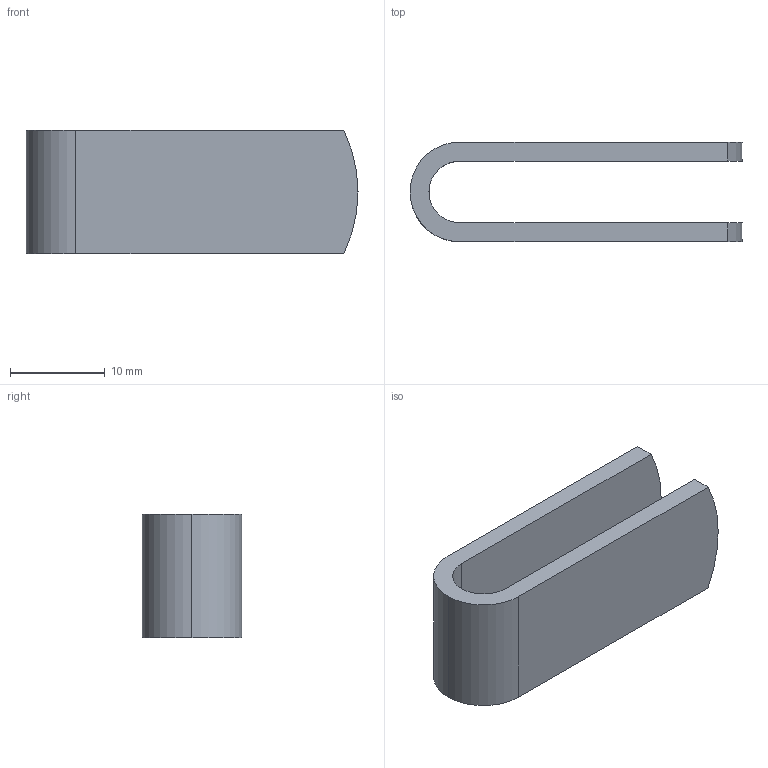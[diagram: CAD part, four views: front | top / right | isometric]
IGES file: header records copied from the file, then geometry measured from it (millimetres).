
Start section: 3D InterOp IGES (v. 2020 1.0.1), Spatial Corp. Copyright (c) 1999-2017.
Global section: file name: 941-2-c1-g.igs; native system: Spatial Corp.; preprocessor: 3D InterOp ACIS/IGES; author: TraceParts; organization: TraceParts S.A.; date: 20231205.144149; units: millimetre
Bounding box: 35 x 10.5 x 13 mm (x, y, z)
Surface area: 2201.9 mm2 (no closed solid volume)
Topology: 0 solids, 0 shells, 12 faces, 60 edges, 60 vertices
Faces by surface type: revolution 6, extrusion 6
